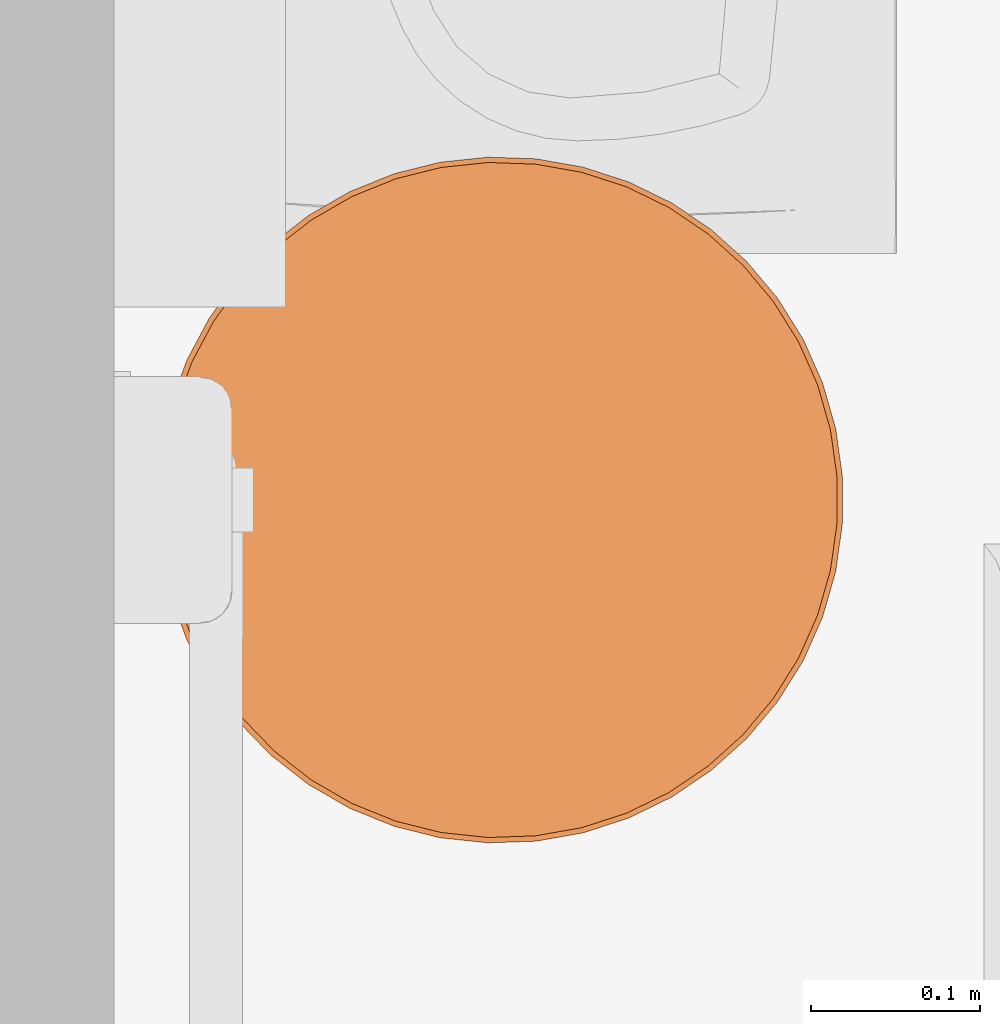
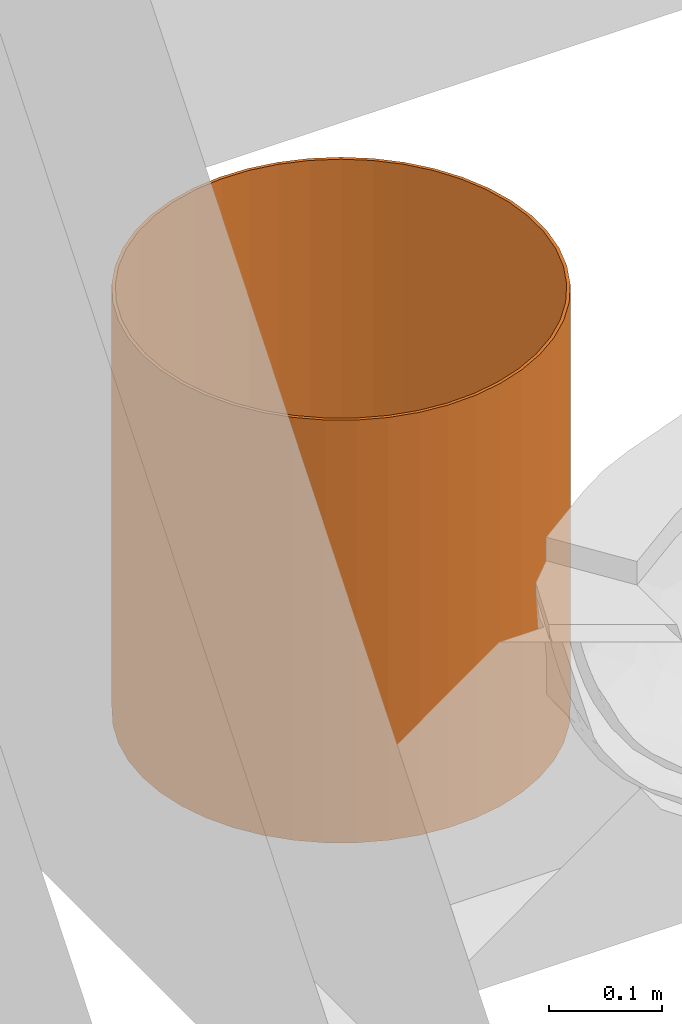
# One storey, part 71 of 142: 1 proxy.
"""IFC2X3 building model written with IfcOpenShell, lengths in feet."""

from ifc_helpers import new_model, entity, si_unit, converted_unit, derived_unit, direction, frame, frame_2d, origin, place, context, subcontext, project, spatial, circle, hollow_circle, extrude, source, transform, mapped, type_object, type_shapes, element, save


model = new_model("IFC2X3")

# Units and contexts
model_context = context("Model", 3, precision=0.0001, world=origin(), true_north=direction((6.12303176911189e-17, 1.0)))
body_context = subcontext(model_context, "Body", "Model", "MODEL_VIEW")
ifc_project = project(units=[converted_unit("LENGTHUNIT", "FOOT", entity("IfcRatioMeasure", 0.3048), si_unit("LENGTHUNIT", "METRE"), dimensions=[1, 0, 0, 0, 0, 0, 0]), converted_unit("AREAUNIT", "SQUARE FOOT", entity("IfcRatioMeasure", 0.09290304), si_unit("AREAUNIT", "SQUARE_METRE"), dimensions=[2, 0, 0, 0, 0, 0, 0]), converted_unit("VOLUMEUNIT", "CUBIC FOOT", entity("IfcRatioMeasure", 0.028316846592), si_unit("VOLUMEUNIT", "CUBIC_METRE"), dimensions=[3, 0, 0, 0, 0, 0, 0]), converted_unit("PLANEANGLEUNIT", "DEGREE", entity("IfcRatioMeasure", 0.0174532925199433), si_unit("PLANEANGLEUNIT", "RADIAN"), dimensions=[0, 0, 0, 0, 0, 0, 0]), si_unit("MASSUNIT", "GRAM", prefix="KILO"), derived_unit("MASSDENSITYUNIT", [(si_unit("MASSUNIT", "GRAM", prefix="KILO"), 1), (si_unit("LENGTHUNIT", "METRE"), -3)]), si_unit("TIMEUNIT", "SECOND"), si_unit("FREQUENCYUNIT", "HERTZ"), si_unit("THERMODYNAMICTEMPERATUREUNIT", "DEGREE_CELSIUS"), derived_unit("THERMALTRANSMITTANCEUNIT", [(si_unit("MASSUNIT", "GRAM", prefix="KILO"), 1), (si_unit("THERMODYNAMICTEMPERATUREUNIT", "KELVIN"), -1), (si_unit("TIMEUNIT", "SECOND"), -3)]), derived_unit("VOLUMETRICFLOWRATEUNIT", [(si_unit("LENGTHUNIT", "METRE"), 3), (si_unit("TIMEUNIT", "SECOND"), -1)]), si_unit("ELECTRICCURRENTUNIT", "AMPERE"), si_unit("ELECTRICVOLTAGEUNIT", "VOLT"), si_unit("POWERUNIT", "WATT"), si_unit("FORCEUNIT", "NEWTON"), si_unit("ILLUMINANCEUNIT", "LUX"), si_unit("LUMINOUSFLUXUNIT", "LUMEN"), si_unit("LUMINOUSINTENSITYUNIT", "CANDELA"), derived_unit("USERDEFINED", [(si_unit("MASSUNIT", "GRAM", prefix="KILO"), -1), (si_unit("LENGTHUNIT", "METRE"), -2), (si_unit("TIMEUNIT", "SECOND"), 3), (si_unit("LUMINOUSFLUXUNIT", "LUMEN"), 1)]), derived_unit("LINEARVELOCITYUNIT", [(si_unit("LENGTHUNIT", "METRE"), 1), (si_unit("TIMEUNIT", "SECOND"), -1)]), si_unit("PRESSUREUNIT", "PASCAL"), derived_unit("USERDEFINED", [(si_unit("LENGTHUNIT", "METRE"), -2), (si_unit("MASSUNIT", "GRAM", prefix="KILO"), 1), (si_unit("TIMEUNIT", "SECOND"), -2)])], contexts=[model_context])

# Site, building, storey, space
site_placement = place(None, origin())
site = spatial("IfcSite", under=ifc_project, at=site_placement, Name="Default", CompositionType="ELEMENT")
building_placement = place(site_placement, origin())
building = spatial("IfcBuilding", under=site, at=building_placement, Name="OUTPATIENT / PACT CLINIC (Ch. 265)", CompositionType="ELEMENT")
storey_placement = place(building_placement, origin())
storey = spatial("IfcBuildingStorey", under=building, at=storey_placement, Name="LEVEL 1", CompositionType="ELEMENT", Elevation=0.0)
space_placement = place(storey_placement, origin())
space = spatial("IfcSpace", under=storey, at=space_placement, Name="TNPG1", CompositionType="ELEMENT", InteriorOrExteriorSpace="INTERNAL")

# Proxy
building_element_proxy_type = type_object("IfcBuildingElementProxyType", Name="F2000 - Basket, Wastepaper", PredefinedType="NOTDEFINED")
shared_shape = source(origin(), body_context, "Body", "SweptSolid", [
    extrude(circle(Radius=0.666666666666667, at=frame_2d((0.0, -3.14944602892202e-15), x_axis=(1.0, 0.0))), origin(), (0.0, 0.0, 1.0), 0.0104166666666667),
    extrude(hollow_circle(Radius=0.666666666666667, WallThickness=0.0104166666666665, at=frame_2d((0.0, -3.14944602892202e-15), x_axis=(1.0, 0.0))), frame((0.0, 0.0, 0.0104166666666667)), (0.0, 0.0, 1.0), 1.48958333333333),
])
type_shapes(building_element_proxy_type, [shared_shape])
proxy_placement = place(space_placement, frame((392.713449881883, -949.233037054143, 0.0), z_axis=(0.0, 0.0, 1.0), x_axis=(-1.0, 0.0, 0.0)))
element("IfcBuildingElementProxy", 1, at=proxy_placement, inside=space, type_object=building_element_proxy_type, Name="F2000 - Basket, Wastepaper:F2000 - Basket, Wastepaper", ObjectType="F2000 - Basket, Wastepaper", context=body_context, shape_type="MappedRepresentation", body=[
    mapped(shared_shape, transform((0.0, 0.0, 0.0), scale=1.0)),
])

save(model, "model.ifc")
